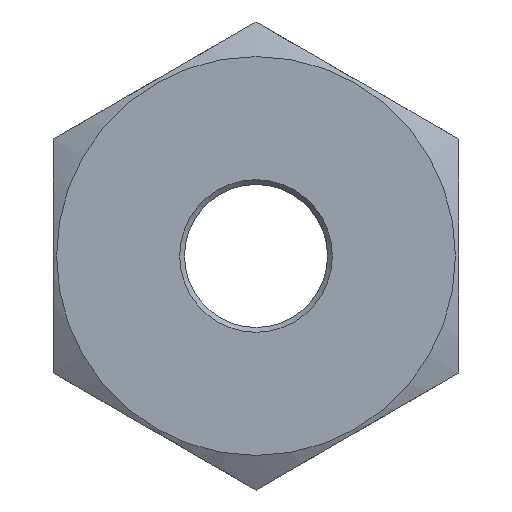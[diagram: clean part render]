
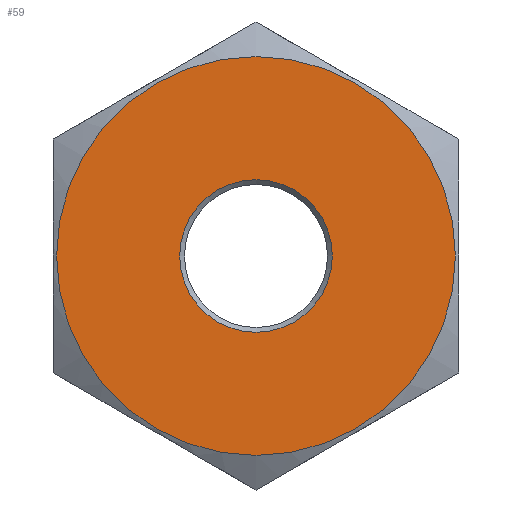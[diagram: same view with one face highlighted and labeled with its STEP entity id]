
A CAD part, left-side view. The second image highlights one B-rep face of the part: STEP entity #59.
In plain terms, the highlighted planar face has unit normal (-1, 0, 0).
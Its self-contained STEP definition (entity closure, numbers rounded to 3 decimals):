
#59 = ADVANCED_FACE( '', ( #125, #126 ), #127, .T. );
#125 = FACE_BOUND( '', #194, .T. );
#126 = FACE_OUTER_BOUND( '', #195, .T. );
#127 = PLANE( '', #196 );
#194 = EDGE_LOOP( '', ( #289 ) );
#195 = EDGE_LOOP( '', ( #290 ) );
#196 = AXIS2_PLACEMENT_3D( '', #291, #292, #293 );
#289 = ORIENTED_EDGE( '', *, *, #371, .T. );
#290 = ORIENTED_EDGE( '', *, *, #379, .T. );
#291 = CARTESIAN_POINT( '', ( -16.5, -8.5, -4.907 ) );
#292 = DIRECTION( '', ( -1., 0., 0. ) );
#293 = DIRECTION( '', ( 0., -1., 0. ) );
#371 = EDGE_CURVE( '', #432, #432, #433, .F. );
#379 = EDGE_CURVE( '', #443, #443, #444, .T. );
#432 = VERTEX_POINT( '', #562 );
#433 = CIRCLE( '', #563, 3.2 );
#443 = VERTEX_POINT( '', #606 );
#444 = CIRCLE( '', #607, 8.365 );
#562 = CARTESIAN_POINT( '', ( -16.5, -3.2, 0. ) );
#563 = AXIS2_PLACEMENT_3D( '', #679, #680, #681 );
#606 = CARTESIAN_POINT( '', ( -16.5, 0., 8.365 ) );
#607 = AXIS2_PLACEMENT_3D( '', #685, #686, #687 );
#679 = CARTESIAN_POINT( '', ( -16.5, 0., 0. ) );
#680 = DIRECTION( '', ( -1., 0., 0. ) );
#681 = DIRECTION( '', ( 0., -1., 0. ) );
#685 = CARTESIAN_POINT( '', ( -16.5, 0., 0. ) );
#686 = DIRECTION( '', ( -1., 0., 0. ) );
#687 = DIRECTION( '', ( 0., 0., 1. ) );
